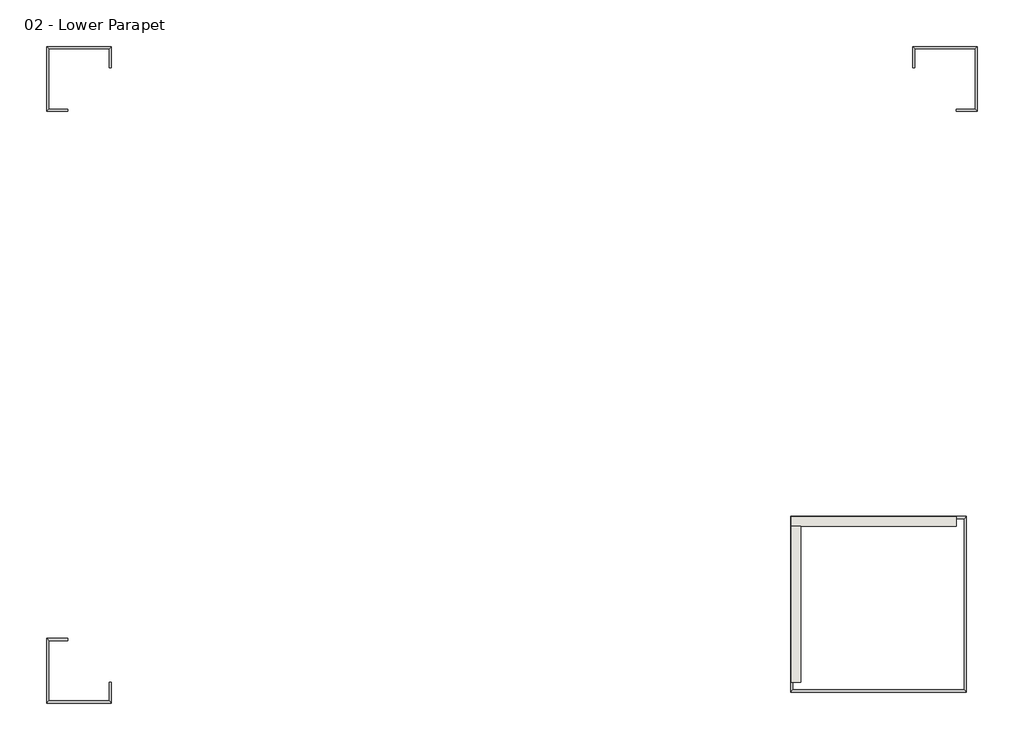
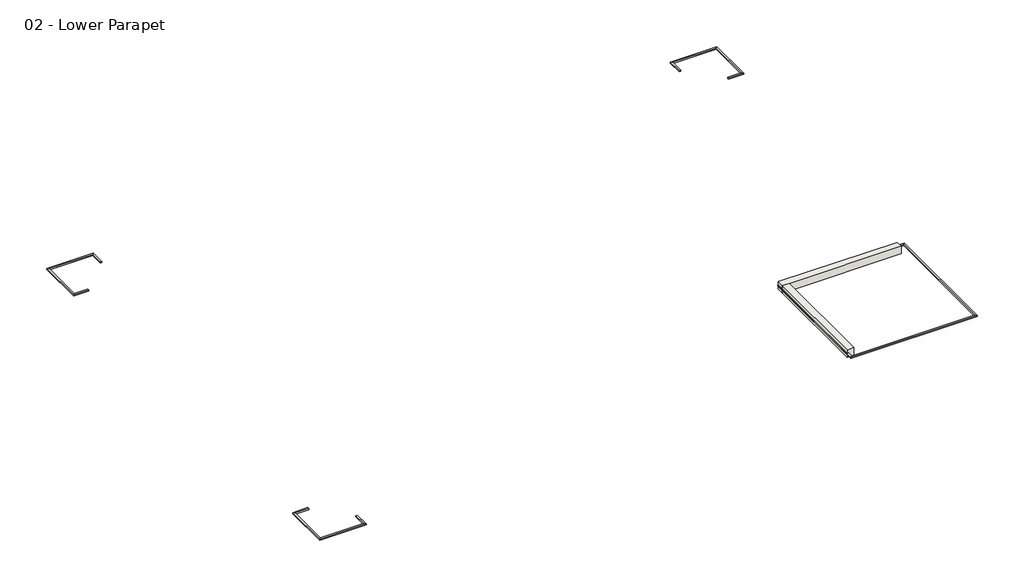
# One storey: 16 proxies, 2 walls.
"""IFC4 building model written with IfcOpenShell, lengths in millimetres."""

from ifc_helpers import new_model, si_unit, frame, origin, place, context, project, spatial, polyline, outline, extrude, faceted_brep, element, save

model = new_model("IFC4")

# Units and contexts
model_context = context("Model", 3, world=origin())
ifc_project = project(units=[si_unit("LENGTHUNIT", "METRE", prefix="MILLI")], contexts=[model_context])

# Site, building, storey
site = spatial("IfcSite", under=ifc_project)
building = spatial("IfcBuilding", under=site)
storey = spatial("IfcBuildingStorey", under=building, Name="02 - Lower Parapet", Elevation=7500.0)

# Proxies
placement = place(None, origin())
element("IfcBuildingElementProxy", 1, Name="Reveals", at=placement, inside=storey, context=model_context, shape_type="SweptSolid", body=[
    extrude(outline(polyline([(-20106.4727721, -13977.9313057), (-20003.9727721, -13977.9313057), (-20003.9727721, -14934.2313057), (-20106.4727721, -14831.7313057), (-20106.4727721, -13977.9313057)])), frame((0.0, 0.0, 7700.0), z_axis=(0.0, 0.0, 1.0), x_axis=(1.0, 0.0, 0.0)), (0.0, 0.0, 1.0), 75.0),
])
element("IfcBuildingElementProxy", 2, Name="Reveals", at=placement, inside=storey, context=model_context, shape_type="SweptSolid", body=[
    extrude(outline(polyline([(-20106.4727721, -14831.7313057), (-20003.9727721, -14934.2313057), (-22946.9727721, -14934.2313057), (-22844.4727721, -14831.7313057), (-20106.4727721, -14831.7313057)])), frame((0.0, 0.0, 7700.0), z_axis=(0.0, 0.0, 1.0), x_axis=(1.0, 0.0, 0.0)), (0.0, 0.0, 1.0), 75.0),
])
element("IfcBuildingElementProxy", 3, Name="Reveals", at=placement, inside=storey, context=model_context, shape_type="SweptSolid", body=[
    extrude(outline(polyline([(-22844.4727721, -14831.7313057), (-22946.9727721, -14934.2313057), (-22946.9727721, -11991.2313057), (-22844.4727721, -12093.7313057), (-22844.4727721, -14831.7313057)])), frame((0.0, 0.0, 7700.0), z_axis=(0.0, 0.0, 1.0), x_axis=(1.0, 0.0, 0.0)), (0.0, 0.0, 1.0), 75.0),
])
element("IfcBuildingElementProxy", 4, Name="Reveals", at=placement, inside=storey, context=model_context, shape_type="SweptSolid", body=[
    extrude(outline(polyline([(-22844.4727721, -12093.7313057), (-22946.9727721, -11991.2313057), (-21990.4727721, -11991.2313057), (-21990.4727721, -12093.7313057), (-22844.4727721, -12093.7313057)])), frame((0.0, 0.0, 7700.0), z_axis=(0.0, 0.0, 1.0), x_axis=(1.0, 0.0, 0.0)), (0.0, 0.0, 1.0), 75.0),
])
element("IfcBuildingElementProxy", 5, Name="Reveals", at=placement, inside=storey, context=model_context, shape_type="SweptSolid", body=[
    extrude(outline(polyline([(-21990.4727721, 12030.0686943), (-21990.4727721, 11927.5686943), (-22946.9727721, 11927.5686943), (-22844.4727721, 12030.0686943), (-21990.4727721, 12030.0686943)])), frame((0.0, 0.0, 7700.0), z_axis=(0.0, 0.0, 1.0), x_axis=(1.0, 0.0, 0.0)), (0.0, 0.0, 1.0), 75.0),
])
element("IfcBuildingElementProxy", 6, Name="Reveals", at=placement, inside=storey, context=model_context, shape_type="SweptSolid", body=[
    extrude(outline(polyline([(-22844.4727721, 12030.0686943), (-22946.9727721, 11927.5686943), (-22946.9727721, 14870.5686943), (-22844.4727721, 14768.0686943), (-22844.4727721, 12030.0686943)])), frame((0.0, 0.0, 7700.0), z_axis=(0.0, 0.0, 1.0), x_axis=(1.0, 0.0, 0.0)), (0.0, 0.0, 1.0), 75.0),
])
element("IfcBuildingElementProxy", 7, Name="Reveals", at=placement, inside=storey, context=model_context, shape_type="SweptSolid", body=[
    extrude(outline(polyline([(-22844.4727721, 14768.0686943), (-22946.9727721, 14870.5686943), (-20003.9727721, 14870.5686943), (-20106.4727721, 14768.0686943), (-22844.4727721, 14768.0686943)])), frame((0.0, 0.0, 7700.0), z_axis=(0.0, 0.0, 1.0), x_axis=(1.0, 0.0, 0.0)), (0.0, 0.0, 1.0), 75.0),
])
element("IfcBuildingElementProxy", 8, Name="Reveals", at=placement, inside=storey, context=model_context, shape_type="SweptSolid", body=[
    extrude(outline(polyline([(-20106.4727721, 14768.0686943), (-20003.9727721, 14870.5686943), (-20003.9727721, 13914.0686943), (-20106.4727721, 13914.0686943), (-20106.4727721, 14768.0686943)])), frame((0.0, 0.0, 7700.0), z_axis=(0.0, 0.0, 1.0), x_axis=(1.0, 0.0, 0.0)), (0.0, 0.0, 1.0), 75.0),
])
element("IfcBuildingElementProxy", 9, Name="Reveals", at=placement, inside=storey, context=model_context, shape_type="SweptSolid", body=[
    extrude(outline(polyline([(16467.5272279, 13914.0686943), (16365.0272279, 13914.0686943), (16365.0272279, 14870.5686943), (16467.5272279, 14768.0686943), (16467.5272279, 13914.0686943)])), frame((0.0, 0.0, 7700.0), z_axis=(0.0, 0.0, 1.0), x_axis=(1.0, 0.0, 0.0)), (0.0, 0.0, 1.0), 75.0),
])
element("IfcBuildingElementProxy", 10, Name="Reveals", at=placement, inside=storey, context=model_context, shape_type="SweptSolid", body=[
    extrude(outline(polyline([(16467.5272279, 14768.0686943), (16365.0272279, 14870.5686943), (19308.0272279, 14870.5686943), (19205.5272279, 14768.0686943), (16467.5272279, 14768.0686943)])), frame((0.0, 0.0, 7700.0), z_axis=(0.0, 0.0, 1.0), x_axis=(1.0, 0.0, 0.0)), (0.0, 0.0, 1.0), 75.0),
])
element("IfcBuildingElementProxy", 11, Name="Reveals", at=placement, inside=storey, context=model_context, shape_type="SweptSolid", body=[
    extrude(outline(polyline([(19205.5272279, 14768.0686943), (19308.0272279, 14870.5686943), (19308.0272279, 11927.5686943), (19205.5272279, 12030.0686943), (19205.5272279, 14768.0686943)])), frame((0.0, 0.0, 7700.0), z_axis=(0.0, 0.0, 1.0), x_axis=(1.0, 0.0, 0.0)), (0.0, 0.0, 1.0), 75.0),
])
element("IfcBuildingElementProxy", 12, Name="Reveals", at=placement, inside=storey, context=model_context, shape_type="SweptSolid", body=[
    extrude(outline(polyline([(19205.5272279, 12030.0686943), (19308.0272279, 11927.5686943), (18351.5272279, 11927.5686943), (18351.5272279, 12030.0686943), (19205.5272279, 12030.0686943)])), frame((0.0, 0.0, 7700.0), z_axis=(0.0, 0.0, 1.0), x_axis=(1.0, 0.0, 0.0)), (0.0, 0.0, 1.0), 75.0),
])
element("IfcBuildingElementProxy", 13, Name="Reveals", at=placement, inside=storey, context=model_context, shape_type="SweptSolid", body=[
    extrude(outline(polyline([(18705.5272279, -6556.9313057), (18808.0272279, -6454.4313057), (18808.0272279, -14434.4313057), (18705.5272279, -14331.9313057), (18705.5272279, -6556.9313057)])), frame((0.0, 0.0, 7700.0), z_axis=(0.0, 0.0, 1.0), x_axis=(1.0, 0.0, 0.0)), (0.0, 0.0, 1.0), 75.0),
])
element("IfcBuildingElementProxy", 14, Name="Reveals", at=placement, inside=storey, context=model_context, shape_type="SweptSolid", body=[
    extrude(outline(polyline([(18705.5272279, -14331.9313057), (18808.0272279, -14434.4313057), (10828.0272279, -14434.4313057), (10930.5272279, -14331.9313057), (18705.5272279, -14331.9313057)])), frame((0.0, 0.0, 7700.0), z_axis=(0.0, 0.0, 1.0), x_axis=(1.0, 0.0, 0.0)), (0.0, 0.0, 1.0), 75.0),
])
element("IfcBuildingElementProxy", 15, Name="Reveals", at=placement, inside=storey, context=model_context, shape_type="SweptSolid", body=[
    extrude(outline(polyline([(18808.0272279, -6454.4313057), (18705.5272279, -6556.9313057), (10930.5272279, -6556.9313057), (10828.0272279, -6454.4313057), (18808.0272279, -6454.4313057)])), frame((0.0, 0.0, 7700.0), z_axis=(0.0, 0.0, 1.0), x_axis=(1.0, 0.0, 0.0)), (0.0, 0.0, 1.0), 75.0),
])
element("IfcBuildingElementProxy", 16, Name="Reveals", at=placement, inside=storey, context=model_context, shape_type="SweptSolid", body=[
    extrude(outline(polyline([(10828.0272279, -6454.4313057), (10930.5272279, -6556.9313057), (10930.5272279, -14331.9313057), (10828.0272279, -14434.4313057), (10828.0272279, -6454.4313057)])), frame((0.0, 0.0, 7700.0), z_axis=(0.0, 0.0, 1.0), x_axis=(1.0, 0.0, 0.0)), (0.0, 0.0, 1.0), 75.0),
])

# Walls
element("IfcWall", 17, ObjectType="Exterior - Render on Brick on Block @ Entry", at=placement, inside=storey, context=model_context, shape_type="Brep", body=[
    faceted_brep([(18351.5272279, -6481.9313057, 7500.0), (10855.5272279, -6481.9313057, 7500.0), (10855.5272279, -6481.9313057, 7700.0), (18351.5272279, -6481.9313057, 7700.0), (10855.5272279, -6481.9313057, 8000.0), (18351.5272279, -6481.9313057, 8000.0), (18351.5272279, -6481.9313057, 7775.0), (10855.5272279, -6481.9313057, 7775.0), (10855.5272279, -6910.9313057, 7500.0), (11284.5272279, -6910.9313057, 7500.0), (18351.5272279, -6910.9313057, 7500.0), (18351.5272279, -6910.9313057, 8000.0), (11284.5272279, -6910.9313057, 8000.0), (10855.5272279, -6910.9313057, 8000.0), (10855.5272279, -6910.9313057, 7775.0), (10930.5272279, -6910.9313057, 7775.0), (10930.5272279, -6910.9313057, 7700.0), (10855.5272279, -6910.9313057, 7700.0), (18351.5272279, -6696.4313057, 7500.0), (10930.5272279, -6556.9313057, 7700.0), (10930.5272279, -6556.9313057, 7775.0), (18351.5272279, -6556.9313057, 7775.0), (18351.5272279, -6556.9313057, 7700.0)], [[[0, 1, 2, 3]], [[4, 5, 6, 7]], [[8, 9, 10, 11, 12, 13, 14, 15, 16, 17]], [[1, 0, 18, 10, 9, 8]], [[5, 4, 13, 12, 11]], [[19, 20, 21, 22]], [[5, 11, 10, 18, 0, 3, 22, 21, 6]], [[16, 19, 22, 3, 2, 17]], [[21, 20, 15, 14, 7, 6]], [[1, 8, 17, 2]], [[13, 4, 7, 14]], [[20, 19, 16, 15]]]),
])
element("IfcWall", 18, ObjectType="Exterior - Render on Brick on Block @ Entry", at=placement, inside=storey, context=model_context, shape_type="Brep", body=[
    faceted_brep([(10855.5272279, -6910.9313057, 7500.0), (10855.5272279, -13977.9313057, 7500.0), (10855.5272279, -13977.9313057, 7700.0), (10855.5272279, -6910.9313057, 7700.0), (10855.5272279, -13977.9313057, 8000.0), (10855.5272279, -6910.9313057, 8000.0), (10855.5272279, -6910.9313057, 7775.0), (10855.5272279, -13977.9313057, 7775.0), (11284.5272279, -13977.9313057, 7500.0), (11284.5272279, -6910.9313057, 7500.0), (11284.5272279, -6910.9313057, 8000.0), (11284.5272279, -13977.9313057, 8000.0), (11070.0272279, -13977.9313057, 7500.0), (10930.5272279, -13977.9313057, 7775.0), (10930.5272279, -6910.9313057, 7775.0), (10930.5272279, -6910.9313057, 7700.0), (10930.5272279, -13977.9313057, 7700.0)], [[[0, 1, 2, 3]], [[4, 5, 6, 7]], [[8, 9, 10, 11]], [[1, 0, 9, 8, 12]], [[5, 4, 11, 10]], [[13, 14, 15, 16]], [[1, 12, 8, 11, 4, 7, 13, 16, 2]], [[5, 10, 9, 0, 3, 15, 14, 6]], [[16, 15, 3, 2]], [[14, 13, 7, 6]]]),
])

save(model, "model.ifc")
